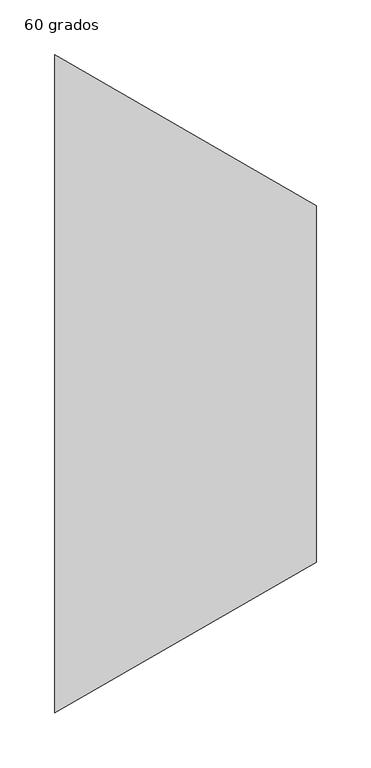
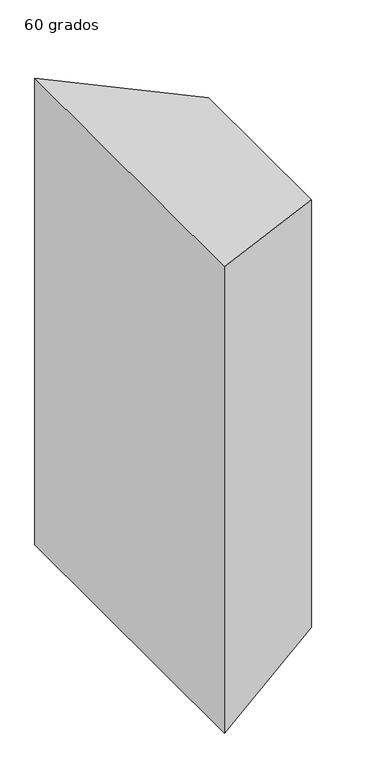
"""IFC4 building model written with IfcOpenShell, lengths in millimetres: duct fitting geometry, M_Transición rectangular - Ángulo : 60 grados."""

from ifc_helpers import new_model, si_unit, origin, place, context, project, spatial, faceted_brep, source, transform, mapped, element, save


def duct_fitting_60_grados_63602fcb(model_context):
    return source(origin(), model_context, "Body", "Brep", [
        faceted_brep([(238.156986, -162.5, 412.5), (238.156986, -162.5, -412.5), (238.156986, 162.5, -412.5), (238.156986, 162.5, 412.5), (0.0, -300.0, 450.0), (0.0, 300.0, 450.0), (0.0, 300.0, -450.0), (0.0, -300.0, -450.0)], [[[0, 1, 2, 3]], [[4, 5, 6, 7]], [[4, 7, 1, 0]], [[7, 6, 2, 1]], [[6, 5, 3, 2]], [[5, 4, 0, 3]]]),
    ])


if __name__ == "__main__":
    model = new_model("IFC4")
    model_context = context("Model", 3, world=origin())
    ifc_project = project(units=[si_unit("LENGTHUNIT", "METRE", prefix="MILLI")], contexts=[model_context])
    site = spatial("IfcSite", under=ifc_project)
    building = spatial("IfcBuilding", under=site)
    placement = place(None, origin())
    duct_fitting_60_grados_shape = duct_fitting_60_grados_63602fcb(model_context)
    element("IfcDuctFitting", 1, ObjectType="M_Transición rectangular - Ángulo : 60 grados", at=placement, inside=building, context=model_context, shape_type="MappedRepresentation", body=[
        mapped(duct_fitting_60_grados_shape, transform((0.0, 0.0, 0.0), x_axis=(1.0, 0.0, 0.0), y_axis=(0.0, 1.0, 0.0), z_axis=(0.0, 0.0, 1.0))),
    ])
    save(model, "model.ifc")
